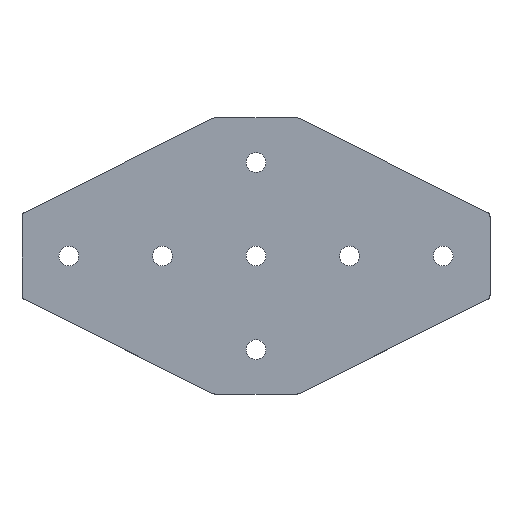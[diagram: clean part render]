
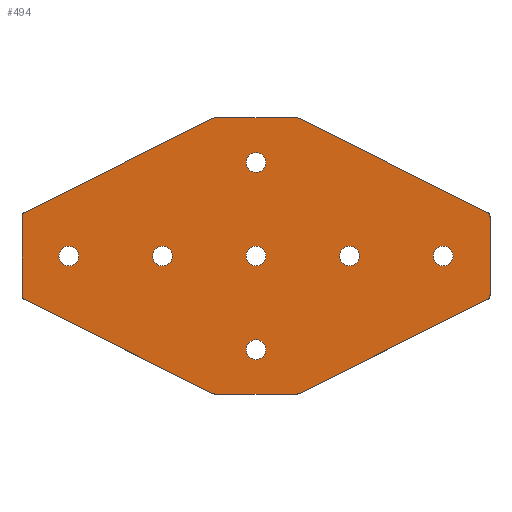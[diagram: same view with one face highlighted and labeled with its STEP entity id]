
A CAD part, top view. The second image highlights one B-rep face of the part: STEP entity #494.
In plain terms, the highlighted planar face has unit normal (0, 0, 1).
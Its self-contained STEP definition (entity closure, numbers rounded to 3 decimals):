
#15=FACE_BOUND('',#80,.T.);
#16=FACE_BOUND('',#81,.T.);
#17=FACE_BOUND('',#82,.T.);
#18=FACE_BOUND('',#83,.T.);
#19=FACE_BOUND('',#84,.T.);
#20=FACE_BOUND('',#85,.T.);
#21=FACE_BOUND('',#86,.T.);
#37=PLANE('',#553);
#54=FACE_OUTER_BOUND('',#79,.T.);
#79=EDGE_LOOP('',(#386,#387,#388,#389,#390,#391,#392,#393,#394,#395,#396,
#397,#398,#399,#400,#401));
#80=EDGE_LOOP('',(#402));
#81=EDGE_LOOP('',(#403));
#82=EDGE_LOOP('',(#404));
#83=EDGE_LOOP('',(#405));
#84=EDGE_LOOP('',(#406));
#85=EDGE_LOOP('',(#407));
#86=EDGE_LOOP('',(#408));
#112=LINE('',#780,#151);
#114=LINE('',#785,#153);
#118=LINE('',#794,#157);
#122=LINE('',#803,#161);
#126=LINE('',#812,#165);
#130=LINE('',#821,#169);
#134=LINE('',#830,#173);
#138=LINE('',#839,#177);
#151=VECTOR('',#634,1000.);
#153=VECTOR('',#638,1000.);
#157=VECTOR('',#644,1000.);
#161=VECTOR('',#650,1000.);
#165=VECTOR('',#656,1000.);
#169=VECTOR('',#662,1000.);
#173=VECTOR('',#668,1000.);
#177=VECTOR('',#674,1000.);
#182=CIRCLE('',#526,4.25);
#184=CIRCLE('',#529,4.25);
#186=CIRCLE('',#532,4.25);
#188=CIRCLE('',#535,4.25);
#190=CIRCLE('',#538,4.25);
#192=CIRCLE('',#541,4.25);
#194=CIRCLE('',#544,4.25);
#195=CIRCLE('',#554,2.);
#196=CIRCLE('',#555,2.);
#197=CIRCLE('',#556,2.);
#198=CIRCLE('',#557,2.);
#199=CIRCLE('',#558,2.);
#200=CIRCLE('',#559,2.);
#201=CIRCLE('',#560,2.);
#202=CIRCLE('',#561,2.);
#212=VERTEX_POINT('',#734);
#214=VERTEX_POINT('',#740);
#216=VERTEX_POINT('',#746);
#218=VERTEX_POINT('',#752);
#220=VERTEX_POINT('',#758);
#222=VERTEX_POINT('',#764);
#224=VERTEX_POINT('',#770);
#227=VERTEX_POINT('',#777);
#228=VERTEX_POINT('',#779);
#229=VERTEX_POINT('',#783);
#230=VERTEX_POINT('',#784);
#233=VERTEX_POINT('',#792);
#234=VERTEX_POINT('',#793);
#237=VERTEX_POINT('',#801);
#238=VERTEX_POINT('',#802);
#241=VERTEX_POINT('',#810);
#242=VERTEX_POINT('',#811);
#245=VERTEX_POINT('',#819);
#246=VERTEX_POINT('',#820);
#249=VERTEX_POINT('',#828);
#250=VERTEX_POINT('',#829);
#253=VERTEX_POINT('',#837);
#254=VERTEX_POINT('',#838);
#259=EDGE_CURVE('',#212,#212,#182,.T.);
#262=EDGE_CURVE('',#214,#214,#184,.T.);
#265=EDGE_CURVE('',#216,#216,#186,.T.);
#268=EDGE_CURVE('',#218,#218,#188,.T.);
#271=EDGE_CURVE('',#220,#220,#190,.T.);
#274=EDGE_CURVE('',#222,#222,#192,.T.);
#277=EDGE_CURVE('',#224,#224,#194,.T.);
#280=EDGE_CURVE('',#228,#227,#112,.T.);
#282=EDGE_CURVE('',#229,#230,#114,.T.);
#286=EDGE_CURVE('',#233,#234,#118,.T.);
#290=EDGE_CURVE('',#237,#238,#122,.T.);
#294=EDGE_CURVE('',#241,#242,#126,.T.);
#298=EDGE_CURVE('',#245,#246,#130,.T.);
#302=EDGE_CURVE('',#249,#250,#134,.T.);
#306=EDGE_CURVE('',#253,#254,#138,.T.);
#310=EDGE_CURVE('',#227,#229,#195,.T.);
#311=EDGE_CURVE('',#230,#233,#196,.T.);
#312=EDGE_CURVE('',#234,#237,#197,.T.);
#313=EDGE_CURVE('',#238,#241,#198,.T.);
#314=EDGE_CURVE('',#242,#245,#199,.T.);
#315=EDGE_CURVE('',#246,#249,#200,.T.);
#316=EDGE_CURVE('',#250,#253,#201,.T.);
#317=EDGE_CURVE('',#254,#228,#202,.T.);
#386=ORIENTED_EDGE('',*,*,#280,.T.);
#387=ORIENTED_EDGE('',*,*,#310,.T.);
#388=ORIENTED_EDGE('',*,*,#282,.T.);
#389=ORIENTED_EDGE('',*,*,#311,.T.);
#390=ORIENTED_EDGE('',*,*,#286,.T.);
#391=ORIENTED_EDGE('',*,*,#312,.T.);
#392=ORIENTED_EDGE('',*,*,#290,.T.);
#393=ORIENTED_EDGE('',*,*,#313,.T.);
#394=ORIENTED_EDGE('',*,*,#294,.T.);
#395=ORIENTED_EDGE('',*,*,#314,.T.);
#396=ORIENTED_EDGE('',*,*,#298,.T.);
#397=ORIENTED_EDGE('',*,*,#315,.T.);
#398=ORIENTED_EDGE('',*,*,#302,.T.);
#399=ORIENTED_EDGE('',*,*,#316,.T.);
#400=ORIENTED_EDGE('',*,*,#306,.T.);
#401=ORIENTED_EDGE('',*,*,#317,.T.);
#402=ORIENTED_EDGE('',*,*,#259,.F.);
#403=ORIENTED_EDGE('',*,*,#262,.F.);
#404=ORIENTED_EDGE('',*,*,#265,.F.);
#405=ORIENTED_EDGE('',*,*,#268,.F.);
#406=ORIENTED_EDGE('',*,*,#271,.F.);
#407=ORIENTED_EDGE('',*,*,#274,.F.);
#408=ORIENTED_EDGE('',*,*,#277,.F.);
#494=ADVANCED_FACE('',(#54,#15,#16,#17,#18,#19,#20,#21),#37,.T.);
#526=AXIS2_PLACEMENT_3D('',#736,#586,#587);
#529=AXIS2_PLACEMENT_3D('',#742,#593,#594);
#532=AXIS2_PLACEMENT_3D('',#748,#600,#601);
#535=AXIS2_PLACEMENT_3D('',#754,#607,#608);
#538=AXIS2_PLACEMENT_3D('',#760,#614,#615);
#541=AXIS2_PLACEMENT_3D('',#766,#621,#622);
#544=AXIS2_PLACEMENT_3D('',#772,#628,#629);
#553=AXIS2_PLACEMENT_3D('',#845,#678,#679);
#554=AXIS2_PLACEMENT_3D('',#846,#680,#681);
#555=AXIS2_PLACEMENT_3D('',#847,#682,#683);
#556=AXIS2_PLACEMENT_3D('',#848,#684,#685);
#557=AXIS2_PLACEMENT_3D('',#849,#686,#687);
#558=AXIS2_PLACEMENT_3D('',#850,#688,#689);
#559=AXIS2_PLACEMENT_3D('',#851,#690,#691);
#560=AXIS2_PLACEMENT_3D('',#852,#692,#693);
#561=AXIS2_PLACEMENT_3D('',#853,#694,#695);
#586=DIRECTION('center_axis',(0.,0.,1.));
#587=DIRECTION('ref_axis',(1.,0.,0.));
#593=DIRECTION('center_axis',(0.,0.,1.));
#594=DIRECTION('ref_axis',(1.,0.,0.));
#600=DIRECTION('center_axis',(0.,0.,1.));
#601=DIRECTION('ref_axis',(1.,0.,0.));
#607=DIRECTION('center_axis',(0.,0.,1.));
#608=DIRECTION('ref_axis',(1.,0.,0.));
#614=DIRECTION('center_axis',(0.,0.,1.));
#615=DIRECTION('ref_axis',(1.,0.,0.));
#621=DIRECTION('center_axis',(0.,0.,1.));
#622=DIRECTION('ref_axis',(1.,0.,0.));
#628=DIRECTION('center_axis',(0.,0.,1.));
#629=DIRECTION('ref_axis',(1.,0.,0.));
#634=DIRECTION('',(-0.894,-0.447,0.));
#638=DIRECTION('',(0.,-1.,0.));
#644=DIRECTION('',(0.894,-0.447,0.));
#650=DIRECTION('',(1.,0.,0.));
#656=DIRECTION('',(0.894,0.447,0.));
#662=DIRECTION('',(0.,1.,0.));
#668=DIRECTION('',(-0.894,0.447,0.));
#674=DIRECTION('',(-1.,0.,0.));
#678=DIRECTION('center_axis',(0.,0.,1.));
#679=DIRECTION('ref_axis',(1.,0.,0.));
#680=DIRECTION('center_axis',(0.,0.,1.));
#681=DIRECTION('ref_axis',(1.,0.,0.));
#682=DIRECTION('center_axis',(0.,0.,1.));
#683=DIRECTION('ref_axis',(1.,0.,0.));
#684=DIRECTION('center_axis',(0.,0.,1.));
#685=DIRECTION('ref_axis',(1.,0.,0.));
#686=DIRECTION('center_axis',(0.,0.,1.));
#687=DIRECTION('ref_axis',(1.,0.,0.));
#688=DIRECTION('center_axis',(0.,0.,1.));
#689=DIRECTION('ref_axis',(1.,0.,0.));
#690=DIRECTION('center_axis',(0.,0.,1.));
#691=DIRECTION('ref_axis',(1.,0.,0.));
#692=DIRECTION('center_axis',(0.,0.,1.));
#693=DIRECTION('ref_axis',(1.,0.,0.));
#694=DIRECTION('center_axis',(0.,0.,1.));
#695=DIRECTION('ref_axis',(1.,0.,0.));
#734=CARTESIAN_POINT('',(30.063,-30.471,3.));
#736=CARTESIAN_POINT('Origin',(34.313,-30.471,3.));
#740=CARTESIAN_POINT('',(30.063,49.529,3.));
#742=CARTESIAN_POINT('Origin',(34.313,49.529,3.));
#746=CARTESIAN_POINT('',(110.063,9.539,3.));
#748=CARTESIAN_POINT('Origin',(114.313,9.539,3.));
#752=CARTESIAN_POINT('',(-49.937,9.518,3.));
#754=CARTESIAN_POINT('Origin',(-45.687,9.518,3.));
#758=CARTESIAN_POINT('',(30.063,9.529,3.));
#760=CARTESIAN_POINT('Origin',(34.313,9.529,3.));
#764=CARTESIAN_POINT('',(70.063,9.534,3.));
#766=CARTESIAN_POINT('Origin',(74.313,9.534,3.));
#770=CARTESIAN_POINT('',(-9.937,9.523,3.));
#772=CARTESIAN_POINT('Origin',(-5.687,9.523,3.));
#777=CARTESIAN_POINT('',(-64.582,28.095,3.));
#779=CARTESIAN_POINT('',(15.89,68.331,3.));
#780=CARTESIAN_POINT('',(16.313,68.542,3.));
#783=CARTESIAN_POINT('',(-65.687,26.306,3.));
#784=CARTESIAN_POINT('',(-65.687,-7.222,3.));
#785=CARTESIAN_POINT('',(-65.687,27.542,3.));
#792=CARTESIAN_POINT('',(-64.582,-9.011,3.));
#793=CARTESIAN_POINT('',(15.89,-49.247,3.));
#794=CARTESIAN_POINT('',(-65.687,-8.458,3.));
#801=CARTESIAN_POINT('',(16.785,-49.458,3.));
#802=CARTESIAN_POINT('',(51.841,-49.458,3.));
#803=CARTESIAN_POINT('',(16.313,-49.458,3.));
#810=CARTESIAN_POINT('',(52.735,-49.247,3.));
#811=CARTESIAN_POINT('',(133.207,-9.011,3.));
#812=CARTESIAN_POINT('',(52.313,-49.458,3.));
#819=CARTESIAN_POINT('',(134.313,-7.222,3.));
#820=CARTESIAN_POINT('',(134.313,26.306,3.));
#821=CARTESIAN_POINT('',(134.313,-8.458,3.));
#828=CARTESIAN_POINT('',(133.207,28.095,3.));
#829=CARTESIAN_POINT('',(52.735,68.331,3.));
#830=CARTESIAN_POINT('',(134.313,27.542,3.));
#837=CARTESIAN_POINT('',(51.841,68.542,3.));
#838=CARTESIAN_POINT('',(16.785,68.542,3.));
#839=CARTESIAN_POINT('',(52.313,68.542,3.));
#845=CARTESIAN_POINT('Origin',(0.,0.,3.));
#846=CARTESIAN_POINT('Origin',(-63.687,26.306,3.));
#847=CARTESIAN_POINT('Origin',(-63.687,-7.222,3.));
#848=CARTESIAN_POINT('Origin',(16.785,-47.458,3.));
#849=CARTESIAN_POINT('Origin',(51.841,-47.458,3.));
#850=CARTESIAN_POINT('Origin',(132.313,-7.222,3.));
#851=CARTESIAN_POINT('Origin',(132.313,26.306,3.));
#852=CARTESIAN_POINT('Origin',(51.841,66.542,3.));
#853=CARTESIAN_POINT('Origin',(16.785,66.542,3.));
